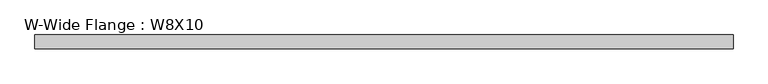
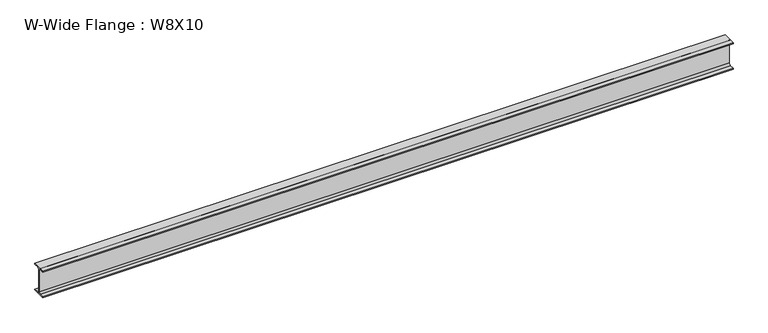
"""IFC4 building model written with IfcOpenShell, lengths in millimetres: beam geometry, W-Wide Flange : W8X10."""

from ifc_helpers import new_model, si_unit, point, frame, frame_2d, origin, place, context, project, spatial, polyline, circle_curve, trimmed, segment, composite_curve, outline, extrude, source, transform, mapped, element, save


def w_wide_flange_w8x10_4803d970(model_context):
    return source(origin(), model_context, "Body", "SweptSolid", [
        extrude(outline(composite_curve([segment(polyline([(50.038, -94.996), (50.038, -100.203), (-50.038, -100.203), (-50.038, -94.996), (-14.4145, -94.996)]), True, "CONTINUOUS"), segment(trimmed(circle_curve(frame_2d((-14.4145, -82.7405)), 12.2555), [point((-14.4145, -94.996))], [point((-2.159, -82.7405))], True, "CARTESIAN"), True, "CONTINUOUS"), segment(polyline([(-2.159, -82.7405), (-2.159, 82.7405)]), True, "CONTINUOUS"), segment(trimmed(circle_curve(frame_2d((-14.4145, 82.7405)), 12.2555), [point((-2.159, 82.7405))], [point((-14.4145, 94.996))], True, "CARTESIAN"), True, "CONTINUOUS"), segment(polyline([(-14.4145, 94.996), (-50.038, 94.996), (-50.038, 100.203), (50.038, 100.203), (50.038, 94.996), (14.4145, 94.996)]), True, "CONTINUOUS"), segment(trimmed(circle_curve(frame_2d((14.4145, 82.7405)), 12.2555), [point((14.4145, 94.996))], [point((2.159, 82.7405))], True, "CARTESIAN"), True, "CONTINUOUS"), segment(polyline([(2.159, 82.7405), (2.159, -82.7405)]), True, "CONTINUOUS"), segment(trimmed(circle_curve(frame_2d((14.4145, -82.7405)), 12.2555), [point((2.159, -82.7405))], [point((14.4145, -94.996))], True, "CARTESIAN"), True, "CONTINUOUS"), segment(polyline([(14.4145, -94.996), (50.038, -94.996)]), True, "CONTINUOUS")], self_intersect=False)), frame((-2487.0171875, 0.0, 0.0), z_axis=(1.0, 0.0, 0.0), x_axis=(0.0, 1.0, 0.0)), (0.0, 0.0, 1.0), 4990.5046875),
    ])


if __name__ == "__main__":
    model = new_model("IFC4")
    model_context = context("Model", 3, world=origin())
    ifc_project = project(units=[si_unit("LENGTHUNIT", "METRE", prefix="MILLI")], contexts=[model_context])
    site = spatial("IfcSite", under=ifc_project)
    building = spatial("IfcBuilding", under=site)
    placement = place(None, origin())
    w_wide_flange_w8x10_shape = w_wide_flange_w8x10_4803d970(model_context)
    element("IfcBeam", 1, ObjectType="W-Wide Flange : W8X10", at=placement, inside=building, context=model_context, shape_type="MappedRepresentation", body=[
        mapped(w_wide_flange_w8x10_shape, transform((0.0, 0.0, 0.0), x_axis=(1.0, 0.0, 0.0), y_axis=(0.0, 1.0, 0.0), z_axis=(0.0, 0.0, 1.0))),
    ])
    save(model, "model.ifc")
